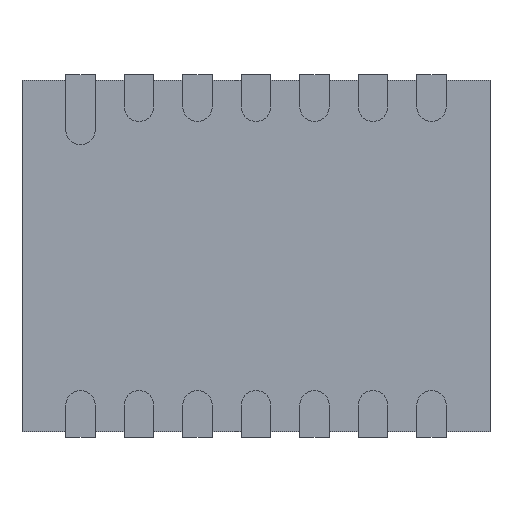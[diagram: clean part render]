
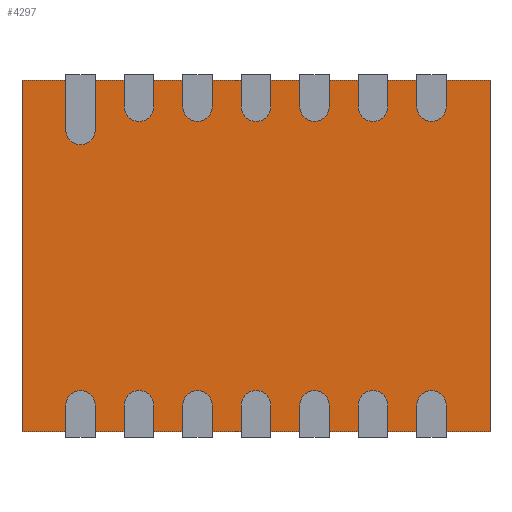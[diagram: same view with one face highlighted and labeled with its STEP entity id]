
A CAD part, front view. The second image highlights one B-rep face of the part: STEP entity #4297.
In plain terms, the highlighted planar face has unit normal (0, -1, 0).
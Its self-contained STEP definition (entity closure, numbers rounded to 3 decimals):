
#4140 = CARTESIAN_POINT ( 'NONE',  ( -2., 0.05, -1.5 ) ) ;
#4141 = VERTEX_POINT ( 'NONE', #4140 ) ;
#4142 = CARTESIAN_POINT ( 'NONE',  ( -2., 0.05, 1.5 ) ) ;
#4143 = VERTEX_POINT ( 'NONE', #4142 ) ;
#4144 = CARTESIAN_POINT ( 'NONE',  ( -2., 0.05, 1.5 ) ) ;
#4145 = DIRECTION ( 'NONE',  ( 0., 0., 1. ) ) ;
#4146 = VECTOR ( 'NONE', #4145, 1000. ) ;
#4147 = LINE ( 'NONE', #4144, #4146 ) ;
#4148 = EDGE_CURVE ( 'NONE', #4141, #4143, #4147, .T. ) ;
#4180 = CARTESIAN_POINT ( 'NONE',  ( 2., 0.05, 1.5 ) ) ;
#4181 = VERTEX_POINT ( 'NONE', #4180 ) ;
#4182 = CARTESIAN_POINT ( 'NONE',  ( 2., 0.05, 1.5 ) ) ;
#4183 = DIRECTION ( 'NONE',  ( 1., 0., 0. ) ) ;
#4184 = VECTOR ( 'NONE', #4183, 1000. ) ;
#4185 = LINE ( 'NONE', #4182, #4184 ) ;
#4186 = EDGE_CURVE ( 'NONE', #4143, #4181, #4185, .T. ) ;
#4211 = CARTESIAN_POINT ( 'NONE',  ( 2., 0.05, -1.5 ) ) ;
#4212 = VERTEX_POINT ( 'NONE', #4211 ) ;
#4213 = CARTESIAN_POINT ( 'NONE',  ( 2., 0.05, 1.5 ) ) ;
#4214 = DIRECTION ( 'NONE',  ( 0., 0., -1. ) ) ;
#4215 = VECTOR ( 'NONE', #4214, 1000. ) ;
#4216 = LINE ( 'NONE', #4213, #4215 ) ;
#4217 = EDGE_CURVE ( 'NONE', #4181, #4212, #4216, .T. ) ;
#4242 = CARTESIAN_POINT ( 'NONE',  ( 2., 0.05, -1.5 ) ) ;
#4243 = DIRECTION ( 'NONE',  ( -1., 0., 0. ) ) ;
#4244 = VECTOR ( 'NONE', #4243, 1000. ) ;
#4245 = LINE ( 'NONE', #4242, #4244 ) ;
#4246 = EDGE_CURVE ( 'NONE', #4212, #4141, #4245, .T. ) ;
#4286 = ORIENTED_EDGE ( 'NONE', *, *, #4148, .F. ) ;
#4287 = ORIENTED_EDGE ( 'NONE', *, *, #4246, .F. ) ;
#4288 = ORIENTED_EDGE ( 'NONE', *, *, #4217, .F. ) ;
#4289 = ORIENTED_EDGE ( 'NONE', *, *, #4186, .F. ) ;
#4290 = EDGE_LOOP ( 'NONE', ( #4286, #4287, #4288, #4289 ) ) ;
#4291 = FACE_OUTER_BOUND ( 'NONE', #4290, .T. ) ;
#4292 = CARTESIAN_POINT ( 'NONE',  ( 0., 0.05, 0. ) ) ;
#4293 = DIRECTION ( 'NONE',  ( 0., 1., 0. ) ) ;
#4294 = DIRECTION ( 'NONE',  ( 0., 0., 1. ) ) ;
#4295 = AXIS2_PLACEMENT_3D ( 'NONE', #4292, #4293, #4294 ) ;
#4296 = PLANE ( 'NONE', #4295 ) ;
#4297 = ADVANCED_FACE ( 'NONE', ( #4291 ), #4296, .F. ) ;
